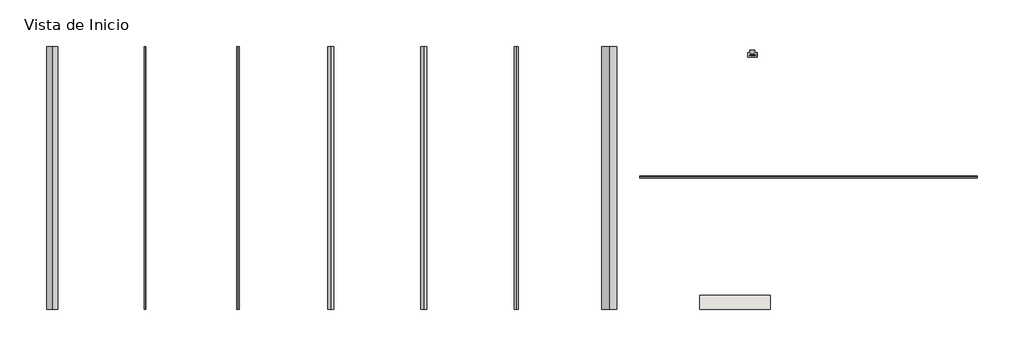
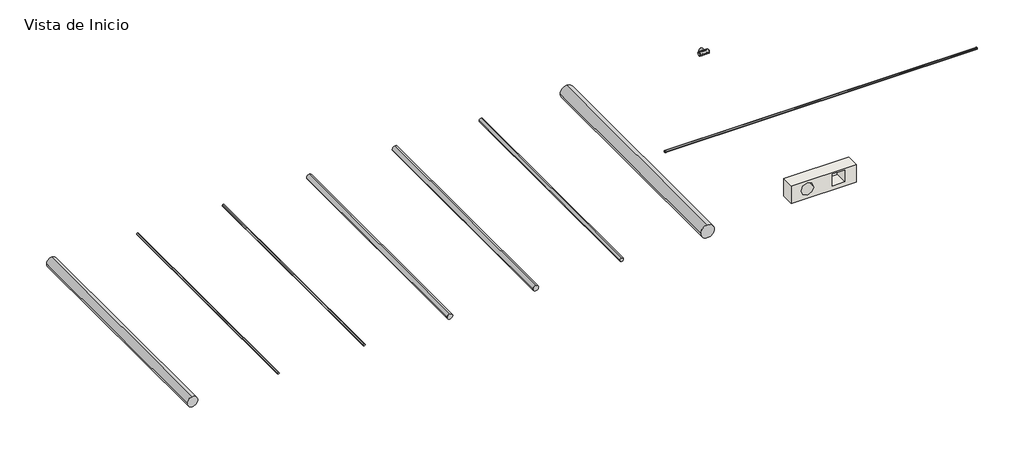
# One storey, incomplete: 8 pipe segments, 3 pipe fittings, 1 wall.
"""IFC4 building model written with IfcOpenShell, lengths in millimetres."""

from ifc_helpers import new_model, si_unit, point, frame, frame_2d, origin, place, context, project, spatial, polyline, circle_curve, trimmed, segment, composite_curve, outline, extrude, transform, mapped, element, save
from components import sch40_08e26c66, sch40_1e0d48bb, sch40_bc6c9668

model = new_model("IFC4")

# Units and contexts
model_context = context("Model", 3, world=origin())
ifc_project = project(units=[si_unit("LENGTHUNIT", "METRE", prefix="MILLI")], contexts=[model_context])

# Site, building, storey
site = spatial("IfcSite", under=ifc_project)
building = spatial("IfcBuilding", under=site)
storey = spatial("IfcBuildingStorey", under=building, Name="Vista de Inicio", Elevation=0.0)

# Pipe fittings
placement = place(None, origin())
sch40_shape = sch40_08e26c66(model_context)
element("IfcPipeFitting", 1, ObjectType="PavcoWavin_UnionesDeTuberia_PVCPresionZNoUsarBuje : SCH40", at=placement, inside=storey, context=model_context, shape_type="MappedRepresentation", body=[
    mapped(sch40_shape, transform((8658.1304343, 4519.7809128, 0.0), x_axis=(1.0, 0.0, 0.0), y_axis=(0.0, -1.0, 0.0), z_axis=(0.0, 0.0, -1.0))),
])
sch40_2_shape = sch40_1e0d48bb(model_context)
element("IfcPipeFitting", 2, ObjectType="PavcoWavin_UnionesDeTuberia_PVCPresionTee : SCH40", at=placement, inside=storey, context=model_context, shape_type="MappedRepresentation", body=[
    mapped(sch40_2_shape, transform((8626.2804343, 4519.7809128, 0.0), x_axis=(-1.0, 0.0, 0.0), y_axis=(0.0, 1.0, 0.0), z_axis=(0.0, 0.0, -1.0))),
])
sch40_3_shape = sch40_bc6c9668(model_context)
element("IfcPipeFitting", 3, ObjectType="PavcoWavin_UnionesDeTuberia_PVCPresionZNoUsarBuje : SCH40", at=placement, inside=storey, context=model_context, shape_type="MappedRepresentation", body=[
    mapped(sch40_3_shape, transform((8626.2804343, 4551.6309128, 0.0), x_axis=(0.0, 1.0, 0.0), y_axis=(1.0, 0.0, 0.0), z_axis=(0.0, 0.0, -1.0))),
])

# Pipe segments
element("IfcPipeSegment", 4, ObjectType="PavcoWavin_Tuberias_PVCPresionRDE9_½\"+RDE11_¾\"(6m)", at=placement, inside=storey, context=model_context, shape_type="SweptSolid", body=[
    extrude(outline(composite_curve([segment(trimmed(circle_curve(frame_2d((0.0, -364.5932235)), 13.49375), [point((0.0, -378.0869735))], [point((-13.49375, -364.5932235))], False, "CARTESIAN"), True, "CONTINUOUS"), segment(trimmed(circle_curve(frame_2d((0.0, -364.5932235)), 13.49375), [point((-13.49375, -364.5932235))], [point((0.0, -351.0994735))], False, "CARTESIAN"), True, "CONTINUOUS"), segment(trimmed(circle_curve(frame_2d((0.0, -364.5932235)), 13.49375), [point((0.0, -351.0994735))], [point((13.49375, -364.5932235))], False, "CARTESIAN"), True, "CONTINUOUS"), segment(trimmed(circle_curve(frame_2d((0.0, -364.5932235)), 13.49375), [point((13.49375, -364.5932235))], [point((0.0, -378.0869735))], False, "CARTESIAN"), True, "CONTINUOUS")], self_intersect=False)), frame((0.0, 746.208853, 0.0), z_axis=(0.0, 1.0, 0.0), x_axis=(0.0, 0.0, 1.0)), (0.0, 0.0, 1.0), 3900.0),
])
element("IfcPipeSegment", 5, ObjectType="PavcoWavin_Tuberias_PVCPresionAguaRecuperada_½\"a2\"(6m)", at=placement, inside=storey, context=model_context, shape_type="SweptSolid", body=[
    extrude(outline(composite_curve([segment(trimmed(circle_curve(frame_2d((0.0, 5134.3230507)), 30.1625), [point((0.0, 5104.1605507))], [point((-30.1625, 5134.3230507))], False, "CARTESIAN"), True, "CONTINUOUS"), segment(trimmed(circle_curve(frame_2d((0.0, 5134.3230507)), 30.1625), [point((-30.1625, 5134.3230507))], [point((0.0, 5164.4855507))], False, "CARTESIAN"), True, "CONTINUOUS"), segment(trimmed(circle_curve(frame_2d((0.0, 5134.3230507)), 30.1625), [point((0.0, 5164.4855507))], [point((30.1625, 5134.3230507))], False, "CARTESIAN"), True, "CONTINUOUS"), segment(trimmed(circle_curve(frame_2d((0.0, 5134.3230507)), 30.1625), [point((30.1625, 5134.3230507))], [point((0.0, 5104.1605507))], False, "CARTESIAN"), True, "CONTINUOUS")], self_intersect=False)), frame((0.0, 746.208853, 0.0), z_axis=(0.0, 1.0, 0.0), x_axis=(0.0, 0.0, 1.0)), (0.0, 0.0, 1.0), 3900.0),
])
element("IfcPipeSegment", 6, ObjectType="PavcoWavin_Tuberias_PVCPresionRDE21_¾\"a6\"+RDE9_½\"(6m)", at=placement, inside=storey, context=model_context, shape_type="SweptSolid", body=[
    extrude(outline(composite_curve([segment(trimmed(circle_curve(frame_2d((0.0, 2384.8649136)), 44.45), [point((0.0, 2340.4149136))], [point((-44.45, 2384.8649136))], False, "CARTESIAN"), True, "CONTINUOUS"), segment(trimmed(circle_curve(frame_2d((0.0, 2384.8649136)), 44.45), [point((-44.45, 2384.8649136))], [point((0.0, 2429.3149136))], False, "CARTESIAN"), True, "CONTINUOUS"), segment(trimmed(circle_curve(frame_2d((0.0, 2384.8649136)), 44.45), [point((0.0, 2429.3149136))], [point((44.45, 2384.8649136))], False, "CARTESIAN"), True, "CONTINUOUS"), segment(trimmed(circle_curve(frame_2d((0.0, 2384.8649136)), 44.45), [point((44.45, 2384.8649136))], [point((0.0, 2340.4149136))], False, "CARTESIAN"), True, "CONTINUOUS")], self_intersect=False)), frame((0.0, 746.208853, 0.0), z_axis=(0.0, 1.0, 0.0), x_axis=(0.0, 0.0, 1.0)), (0.0, 0.0, 1.0), 3900.0),
])
element("IfcPipeSegment", 7, ObjectType="PavcoWavin_Tuberias_PVCPresionSCH80_1¼\"a8\"(6.1m)", at=placement, inside=storey, context=model_context, shape_type="SweptSolid", body=[
    extrude(outline(composite_curve([segment(trimmed(circle_curve(frame_2d((0.0, 6509.0521193)), 109.5375), [point((0.0, 6399.5146193))], [point((-109.5375, 6509.0521193))], False, "CARTESIAN"), True, "CONTINUOUS"), segment(trimmed(circle_curve(frame_2d((0.0, 6509.0521193)), 109.5375), [point((-109.5375, 6509.0521193))], [point((0.0, 6618.5896193))], False, "CARTESIAN"), True, "CONTINUOUS"), segment(trimmed(circle_curve(frame_2d((0.0, 6509.0521193)), 109.5375), [point((0.0, 6618.5896193))], [point((109.5375, 6509.0521193))], False, "CARTESIAN"), True, "CONTINUOUS"), segment(trimmed(circle_curve(frame_2d((0.0, 6509.0521193)), 109.5375), [point((109.5375, 6509.0521193))], [point((0.0, 6399.5146193))], False, "CARTESIAN"), True, "CONTINUOUS")], self_intersect=False)), frame((0.0, 746.208853, 0.0), z_axis=(0.0, 1.0, 0.0), x_axis=(0.0, 0.0, 1.0)), (0.0, 0.0, 1.0), 3900.0),
])
element("IfcPipeSegment", 8, ObjectType="PavcoWavin_Tuberias_PVCPresionRDE26_2\"y3\"(6m)", at=placement, inside=storey, context=model_context, shape_type="SweptSolid", body=[
    extrude(outline(composite_curve([segment(trimmed(circle_curve(frame_2d((0.0, 3759.5939821)), 44.45), [point((0.0, 3715.1439821))], [point((-44.45, 3759.5939821))], False, "CARTESIAN"), True, "CONTINUOUS"), segment(trimmed(circle_curve(frame_2d((0.0, 3759.5939821)), 44.45), [point((-44.45, 3759.5939821))], [point((0.0, 3804.0439821))], False, "CARTESIAN"), True, "CONTINUOUS"), segment(trimmed(circle_curve(frame_2d((0.0, 3759.5939821)), 44.45), [point((0.0, 3804.0439821))], [point((44.45, 3759.5939821))], False, "CARTESIAN"), True, "CONTINUOUS"), segment(trimmed(circle_curve(frame_2d((0.0, 3759.5939821)), 44.45), [point((44.45, 3759.5939821))], [point((0.0, 3715.1439821))], False, "CARTESIAN"), True, "CONTINUOUS")], self_intersect=False)), frame((0.0, 746.208853, 0.0), z_axis=(0.0, 1.0, 0.0), x_axis=(0.0, 0.0, 1.0)), (0.0, 0.0, 1.0), 3900.0),
])
element("IfcPipeSegment", 9, ObjectType="PavcoWavin_Tuberias_PVCPresionBiaxial_3\"a6\"(6m)", at=placement, inside=storey, context=model_context, shape_type="SweptSolid", body=[
    extrude(outline(composite_curve([segment(trimmed(circle_curve(frame_2d((0.0, -1739.3222921)), 84.1375), [point((0.0, -1823.4597921))], [point((-84.1375, -1739.3222921))], False, "CARTESIAN"), True, "CONTINUOUS"), segment(trimmed(circle_curve(frame_2d((0.0, -1739.3222921)), 84.1375), [point((-84.1375, -1739.3222921))], [point((0.0, -1655.1847921))], False, "CARTESIAN"), True, "CONTINUOUS"), segment(trimmed(circle_curve(frame_2d((0.0, -1739.3222921)), 84.1375), [point((0.0, -1655.1847921))], [point((84.1375, -1739.3222921))], False, "CARTESIAN"), True, "CONTINUOUS"), segment(trimmed(circle_curve(frame_2d((0.0, -1739.3222921)), 84.1375), [point((84.1375, -1739.3222921))], [point((0.0, -1823.4597921))], False, "CARTESIAN"), True, "CONTINUOUS")], self_intersect=False)), frame((0.0, 746.208853, 0.0), z_axis=(0.0, 1.0, 0.0), x_axis=(0.0, 0.0, 1.0)), (0.0, 0.0, 1.0), 3900.0),
])
element("IfcPipeSegment", 10, ObjectType="PavcoWavin_Tuberias_PVCPresionRDE13.5_½\"y1\"(6m)", at=placement, inside=storey, context=model_context, shape_type="SweptSolid", body=[
    extrude(outline(composite_curve([segment(trimmed(circle_curve(frame_2d((0.0, 1010.135845)), 16.66875), [point((0.0, 993.467095))], [point((-16.66875, 1010.135845))], False, "CARTESIAN"), True, "CONTINUOUS"), segment(trimmed(circle_curve(frame_2d((0.0, 1010.135845)), 16.66875), [point((-16.66875, 1010.135845))], [point((0.0, 1026.804595))], False, "CARTESIAN"), True, "CONTINUOUS"), segment(trimmed(circle_curve(frame_2d((0.0, 1010.135845)), 16.66875), [point((0.0, 1026.804595))], [point((16.66875, 1010.135845))], False, "CARTESIAN"), True, "CONTINUOUS"), segment(trimmed(circle_curve(frame_2d((0.0, 1010.135845)), 16.66875), [point((16.66875, 1010.135845))], [point((0.0, 993.467095))], False, "CARTESIAN"), True, "CONTINUOUS")], self_intersect=False)), frame((0.0, 746.208853, 0.0), z_axis=(0.0, 1.0, 0.0), x_axis=(0.0, 0.0, 1.0)), (0.0, 0.0, 1.0), 3900.0),
])
element("IfcPipeSegment", 11, ObjectType="PavcoWavin_Tuberias_PVCPresionRDE9_½\"+RDE11_¾\"(6m)", at=placement, inside=storey, context=model_context, shape_type="SweptSolid", body=[
    extrude(outline(composite_curve([segment(trimmed(circle_curve(frame_2d((2712.5663183, 0.0)), 13.49375), [point((2726.0600683, 0.0))], [point((2712.5663183, -13.49375))], False, "CARTESIAN"), True, "CONTINUOUS"), segment(trimmed(circle_curve(frame_2d((2712.5663183, 0.0)), 13.49375), [point((2712.5663183, -13.49375))], [point((2699.0725683, 0.0))], False, "CARTESIAN"), True, "CONTINUOUS"), segment(trimmed(circle_curve(frame_2d((2712.5663183, 0.0)), 13.49375), [point((2699.0725683, 0.0))], [point((2712.5663183, 13.49375))], False, "CARTESIAN"), True, "CONTINUOUS"), segment(trimmed(circle_curve(frame_2d((2712.5663183, 0.0)), 13.49375), [point((2712.5663183, 13.49375))], [point((2726.0600683, 0.0))], False, "CARTESIAN"), True, "CONTINUOUS")], self_intersect=False)), frame((6960.8239544, 0.0, 0.0), z_axis=(1.0, 0.0, 0.0), x_axis=(0.0, 1.0, 0.0)), (0.0, 0.0, 1.0), 5000.0),
])

# Wall
element("IfcWall", 12, ObjectType="Wall 1", at=placement, inside=storey, context=model_context, shape_type="SweptSolid", body=[
    extrude(outline(polyline([(0.0, 7851.3882783), (0.0, 8891.3882783), (296.5968372, 8891.3882783), (296.5968372, 7851.3882783), (0.0, 7851.3882783)]), holes=[composite_curve([segment(trimmed(circle_curve(frame_2d((154.4282969, 8111.3882783)), 100.0), [point((154.4282969, 8211.3882783))], [point((154.4282969, 8011.3882783))], True, "CARTESIAN"), True, "CONTINUOUS"), segment(trimmed(circle_curve(frame_2d((154.4282969, 8111.3882783)), 100.0), [point((154.4282969, 8011.3882783))], [point((154.4282969, 8211.3882783))], True, "CARTESIAN"), True, "CONTINUOUS")], self_intersect=False), polyline([(66.4896004, 8711.3882783), (66.4896004, 8511.3882783), (266.4896004, 8511.3882783), (266.4896004, 8711.3882783), (66.4896004, 8711.3882783)])]), frame((0.0, 750.3530441, 0.0), z_axis=(0.0, 1.0, 0.0), x_axis=(0.0, 0.0, 1.0)), (0.0, 0.0, 1.0), 203.2),
])

save(model, "model.ifc")
